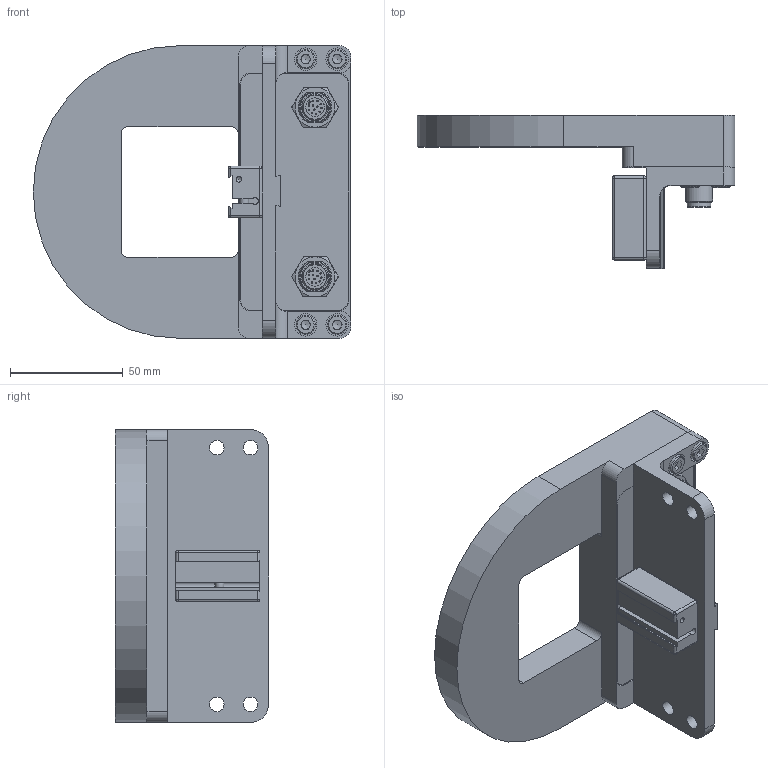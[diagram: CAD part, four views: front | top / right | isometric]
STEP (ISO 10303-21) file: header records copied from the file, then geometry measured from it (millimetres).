
FILE_DESCRIPTION(/* description */ (''),/* implementation_level */ '2;1');
FILE_NAME(/* name */ '153-13737_LR-130-RK-24-Q2A12-2L12.stp',/* time_stamp */ '2026-04-29T08:02:36+02:00',/* author */ ('SensoPart'),/* organization */ ('SensoPart'),/* preprocessor_version */ 'ST-DEVELOPER v20',/* originating_system */ 'Autodesk Inventor 2025',/* authorisation */ '');
FILE_SCHEMA (('AUTOMOTIVE_DESIGN { 1 0 10303 214 3 1 1 }'));
Length unit declared in the file: millimetre
Products named in the file (1): GH-ENG-0051702_Vereinfachen_1
Bounding box: 141 x 68 x 130 mm (x, y, z)
Volume: 291257.4 mm3; surface area: 72899.8 mm2
Topology: 1 solids, 8 shells, 500 faces, 1267 edges, 814 vertices
Faces by surface type: plane 226, cylinder 179, cone 40, sphere 32, torus 19, bspline 4
Full cylindrical faces by diameter (mm): 0.6 x24, 2.459 x2, 3.242 x1, 3.422 x4, 4 x3, 4.2 x4, 4.5 x3, 4.978 x1, 6.5 x4, 7 x3, 8 x3, 8.3 x2, 8.5 x4, 10 x4, 10.6 x2, 12 x2, 13.5 x2, 82.4 x1, 127 x2, 127.4 x1, 127.6 x2, 128.2 x1
Entity records: 16184 total; most frequent: CARTESIAN_POINT 3448, DIRECTION 2653, ORIENTED_EDGE 2454, EDGE_CURVE 1227, AXIS2_PLACEMENT_3D 1000, VERTEX_POINT 813, LINE 653, VECTOR 653
